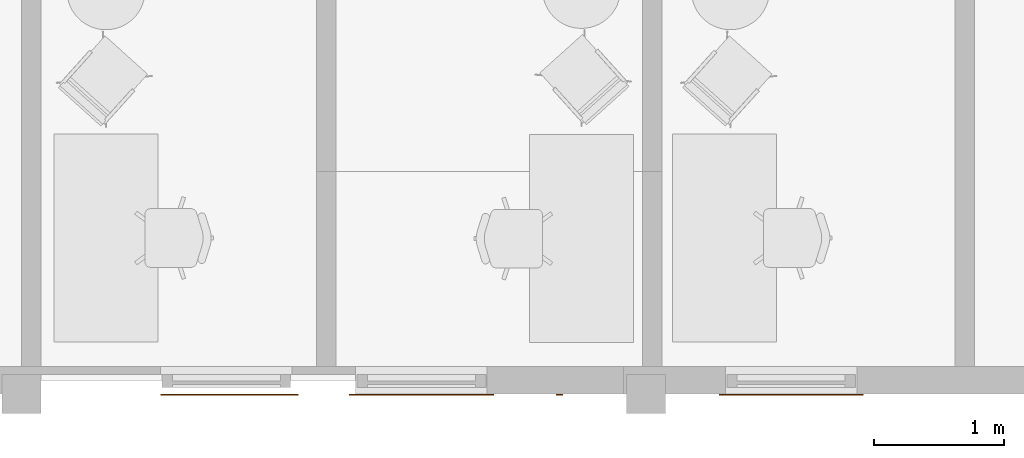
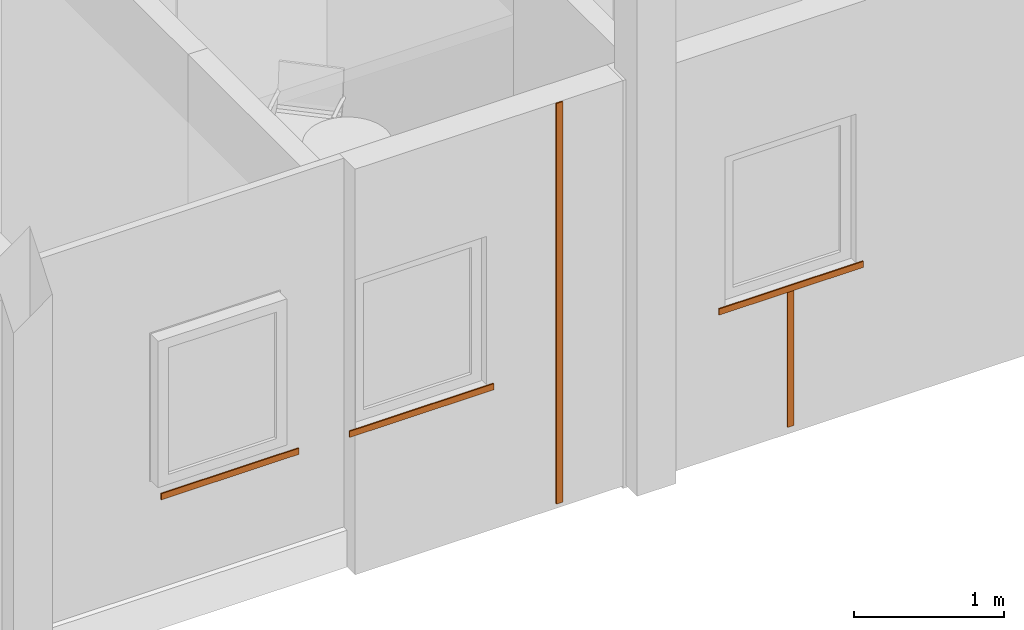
# One storey, part 56 of 58: 5 proxies.
"""IFC2X3 building model written with IfcOpenShell, lengths in millimetres."""

from ifc_helpers import new_model, entity, si_unit, converted_unit, derived_unit, direction, frame, frame_2d, origin, origin_2d_with_axis, place, context, subcontext, project, spatial, rectangle, extrude, source, transform, mapped, material, type_object, type_shapes, element, save


model = new_model("IFC2X3")

# Units and contexts
model_context = context("Model", 3, precision=0.01, world=origin(), true_north=direction((0.7716245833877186, 0.6360782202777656)))
body_context = subcontext(model_context, "Body", "Model", "MODEL_VIEW")
ifc_project = project(units=[si_unit("LENGTHUNIT", "METRE", prefix="MILLI"), si_unit("AREAUNIT", "SQUARE_METRE"), converted_unit("PLANEANGLEUNIT", "DEGREE", entity("IfcPlaneAngleMeasure", 0.017453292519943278), si_unit("PLANEANGLEUNIT", "RADIAN"), dimensions=[0, 0, 0, 0, 0, 0, 0]), derived_unit("THERMALTRANSMITTANCEUNIT", [(si_unit("MASSUNIT", "GRAM", prefix="KILO"), 1), (si_unit("THERMODYNAMICTEMPERATUREUNIT", "KELVIN"), -1), (si_unit("TIMEUNIT", "SECOND"), -3)])], contexts=[model_context])

# Site, building, storey
site_placement = place(None, origin())
site = spatial("IfcSite", under=ifc_project, at=site_placement, Name="Default", CompositionType="ELEMENT")
building_placement = place(site_placement, origin())
building = spatial("IfcBuilding", under=site, at=building_placement, CompositionType="ELEMENT")
storey_placement = place(building_placement, frame((0.0, 0.0, 31140.0)))
storey = spatial("IfcBuildingStorey", under=building, at=storey_placement, Name="PLAN U1", CompositionType="ELEMENT", Elevation=31140.000000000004)

# Proxies
ifc_material = material(Name="Aluminum")
building_element_proxy_type_1 = type_object("IfcBuildingElementProxyType", Name="Fasade profil, VER:Fasade profil 100x50", PredefinedType="NOTDEFINED", material=ifc_material)
shared_shape_1 = source(origin(), body_context, "Body", "SweptSolid", [
    extrude(rectangle(XDim=50.000000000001, YDim=10.000000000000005, at=frame_2d((-2.1316282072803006e-14, 0.0), x_axis=(1.0, 0.0))), frame((25.0, -5.0, 0.0), z_axis=(0.0, 0.0, 1.0), x_axis=(-1.0, 0.0, 0.0)), (0.0, 0.0, 1.0), 1097.6856771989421),
])
type_shapes(building_element_proxy_type_1, [shared_shape_1])
proxy_1_placement = place(storey_placement, frame((271807.8424929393, 53315.25555007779, -257.6856771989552)))
element("IfcBuildingElementProxy", 1, at=proxy_1_placement, inside=storey, type_object=building_element_proxy_type_1, material=ifc_material, Name="Fasade profil, VER:Fasade profil 100x50", ObjectType="Fasade profil, VER:Fasade profil 100x50", context=body_context, shape_type="MappedRepresentation", body=[
    mapped(shared_shape_1, transform((0.0, 0.0, 0.0), scale=1.0)),
])
building_element_proxy_type_2 = type_object("IfcBuildingElementProxyType", Name="Fasade profil, HOR:Fasade profil 100x50", PredefinedType="NOTDEFINED", material=ifc_material)
shared_shape_2 = source(origin(), body_context, "Body", "SweptSolid", [
    extrude(rectangle(XDim=1060.0000000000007, YDim=9.999999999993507, at=origin_2d_with_axis()), frame((530.0, -5.0, 0.0), z_axis=(0.0, 0.0, 1.0), x_axis=(-1.0, 0.0, 0.0)), (0.0, 0.0, 1.0), 50.00000000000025),
])
type_shapes(building_element_proxy_type_2, [shared_shape_2])
proxy_2_placement = place(storey_placement, frame((266987.5564872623, 53315.255550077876, 840.0)))
element("IfcBuildingElementProxy", 2, at=proxy_2_placement, inside=storey, type_object=building_element_proxy_type_2, material=ifc_material, Name="Fasade profil, HOR:Fasade profil 100x50", ObjectType="Fasade profil, HOR:Fasade profil 100x50", context=body_context, shape_type="MappedRepresentation", body=[
    mapped(shared_shape_2, transform((0.0, 0.0, 0.0), scale=1.0)),
])
building_element_proxy_type_3 = type_object("IfcBuildingElementProxyType", Name="Fasade profil, HOR:Fasade profil 100x50", PredefinedType="NOTDEFINED", material=ifc_material)
shared_shape_3 = source(origin(), body_context, "Body", "SweptSolid", [
    extrude(rectangle(XDim=1110.0000000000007, YDim=9.999999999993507, at=origin_2d_with_axis()), frame((555.0, -5.0, 0.0), z_axis=(0.0, 0.0, 1.0), x_axis=(-1.0, 0.0, 0.0)), (0.0, 0.0, 1.0), 50.00000000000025),
])
type_shapes(building_element_proxy_type_3, [shared_shape_3])
for number, where, name in (
    (3, (271280.53647745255, 53315.255550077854, 840.0), "Fasade profil, HOR:Fasade profil 100x50"),
    (4, (268437.55648726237, 53315.25555007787, 840.0), "Fasade profil, HOR:Fasade profil 100x50"),
):
    element("IfcBuildingElementProxy", number, at=place(storey_placement, frame(where)), inside=storey, type_object=building_element_proxy_type_3, material=ifc_material, Name=name, ObjectType="Fasade profil, HOR:Fasade profil 100x50", context=body_context, shape_type="MappedRepresentation", body=[
        mapped(shared_shape_3, transform((0.0, 0.0, 0.0), scale=1.0)),
    ])
building_element_proxy_type_4 = type_object("IfcBuildingElementProxyType", Name="Fasade profil, VER:Fasade profil 100x50", PredefinedType="NOTDEFINED", material=ifc_material)
shared_shape_4 = source(origin(), body_context, "Body", "SweptSolid", [
    extrude(rectangle(XDim=50.000000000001, YDim=10.000000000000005, at=frame_2d((-2.1316282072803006e-14, 0.0), x_axis=(1.0, 0.0))), frame((25.0, -5.0, 0.0), z_axis=(0.0, 0.0, 1.0), x_axis=(-1.0, 0.0, 0.0)), (0.0, 0.0, 1.0), 3260.0),
])
type_shapes(building_element_proxy_type_4, [shared_shape_4])
proxy_3_placement = place(storey_placement, frame((270027.7404668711, 53315.25555007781, -260.0)))
element("IfcBuildingElementProxy", 5, at=proxy_3_placement, inside=storey, type_object=building_element_proxy_type_4, material=ifc_material, Name="Fasade profil, VER:Fasade profil 100x50", ObjectType="Fasade profil, VER:Fasade profil 100x50", context=body_context, shape_type="MappedRepresentation", body=[
    mapped(shared_shape_4, transform((0.0, 0.0, 0.0), scale=1.0)),
])

save(model, "model.ifc")
